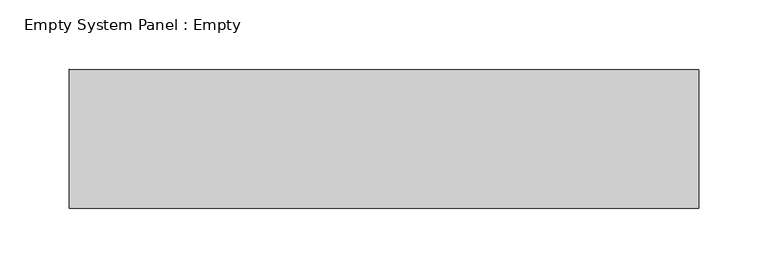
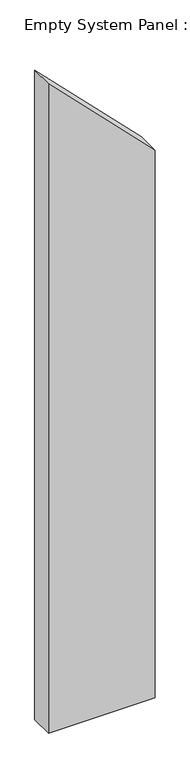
"""IFC4 building model written with IfcOpenShell, lengths in millimetres: plate geometry, Empty System Panel : Empty."""

import ifcopenshell
import ifcopenshell.guid

model = None  # the IFC model being written
_history = None  # IfcOwnerHistory: only IFC2X3 demands one
_inside = {}  # id of a spatial element -> (the spatial element, [elements in it])
_under = {}  # id of a project, library or spatial element -> (it, [spatial elements below it])
_declared = {}  # id of a project -> (the project, [libraries it declares])
_typed = {}  # id of a type object -> (the type object, [elements of that type])
_made_of = {}  # id of a material, layer set ... -> (it, [elements and type objects made of it])


def new_model(schema):
    """Start an empty IFC model of exactly this schema.

    Asked for "IFC4X3", IfcOpenShell would pick the latest addendum, in which some entities
    have other attributes; the version numbers below select the first issue.
    IFC2X3 requires an IfcOwnerHistory on every rooted entity: one is made here for all.
    """
    global model, _history
    if schema == "IFC4X3":
        model = ifcopenshell.file(schema_version=(4, 3, 0, 0))
    else:
        model = ifcopenshell.file(schema=schema)
    _inside.clear()
    _under.clear()
    _declared.clear()
    _typed.clear()
    _made_of.clear()
    _history = None
    if model.schema == "IFC2X3":
        org = make("IfcOrganization", Name="unknown")
        user = make(
            "IfcPersonAndOrganization",
            ThePerson=make("IfcPerson", FamilyName="unknown"),
            TheOrganization=org,
        )
        app = make(
            "IfcApplication",
            ApplicationDeveloper=org,
            Version="unknown",
            ApplicationFullName="unknown",
            ApplicationIdentifier="unknown",
        )
        _history = make(
            "IfcOwnerHistory",
            OwningUser=user,
            OwningApplication=app,
            ChangeAction="ADDED",
            CreationDate=0,
        )
    return model


def make(cls, **values):
    """One entity of the class cls with the attributes given. An attribute that is None is left unset."""
    return model.create_entity(
        cls, **{name: value for name, value in values.items() if value is not None}
    )


def rooted(cls, **values):
    """An entity with a GlobalId (a new one), such as an element, a storey or a relation."""
    return make(cls, GlobalId=ifcopenshell.guid.new(), OwnerHistory=_history, **values)


def si_unit(unit_type, name, prefix=None):
    """IfcSIUnit, for example si_unit("LENGTHUNIT", "METRE", prefix="MILLI")."""
    return make("IfcSIUnit", UnitType=unit_type, Prefix=prefix, Name=name)


def assignment(units):
    """IfcUnitAssignment: the units of a project."""
    return None if units is None else make("IfcUnitAssignment", Units=units)


def point(xyz):
    """IfcCartesianPoint."""
    return None if xyz is None else make("IfcCartesianPoint", Coordinates=xyz)


def direction(xyz):
    """IfcDirection."""
    return None if xyz is None else make("IfcDirection", DirectionRatios=xyz)


def frame(location, z_axis=None, x_axis=None):
    """IfcAxis2Placement3D, a coordinate frame: its origin and axes. An axis left out is left unset."""
    return make(
        "IfcAxis2Placement3D",
        Location=point(location),
        Axis=direction(z_axis),
        RefDirection=direction(x_axis),
    )


def origin():
    """The frame at (0, 0, 0) with its axes left unset."""
    return frame((0.0, 0.0, 0.0))


def place(relative_to, where):
    """IfcLocalPlacement: puts the frame where relative to a parent placement (None: the world)."""
    return make(
        "IfcLocalPlacement", PlacementRelTo=relative_to, RelativePlacement=where
    )


def context(
    kind, dimensions, precision=None, world=None, true_north=None, identifier=None
):
    """IfcGeometricRepresentationContext, for example the 3D "Model" context."""
    return make(
        "IfcGeometricRepresentationContext",
        ContextIdentifier=identifier,
        ContextType=kind,
        CoordinateSpaceDimension=dimensions,
        Precision=precision,
        WorldCoordinateSystem=world,
        TrueNorth=true_north,
    )


def project(units=None, contexts=None):
    """IfcProject with its units and contexts."""
    return rooted(
        "IfcProject",
        Name="project",
        RepresentationContexts=contexts,
        UnitsInContext=assignment(units),
    )


def spatial(cls, under=None, at=None, **own):
    """A site, building, storey or space (cls), placed at a placement, below another one or the project."""
    s = rooted(cls, ObjectPlacement=at, **own)
    if under is not None:
        _under.setdefault(under.id(), (under, []))[1].append(s)
    return s


def polyline(points):
    """IfcPolyline through the points."""
    return make("IfcPolyline", Points=[point(p) for p in points])


def outline(outer, holes=None, kind="AREA"):
    """IfcArbitraryClosedProfileDef: a profile drawn as a closed curve; with holes, ...WithVoids."""
    if holes is None:
        return make("IfcArbitraryClosedProfileDef", ProfileType=kind, OuterCurve=outer)
    return make(
        "IfcArbitraryProfileDefWithVoids",
        ProfileType=kind,
        OuterCurve=outer,
        InnerCurves=holes,
    )


def extrude(swept, where, along, depth):
    """IfcExtrudedAreaSolid: the profile swept, set in the frame where, extruded along a direction by depth."""
    return make(
        "IfcExtrudedAreaSolid",
        SweptArea=swept,
        Position=where,
        ExtrudedDirection=direction(along),
        Depth=depth,
    )


def shape(context_of_items, identifier, shape_type, items):
    """IfcShapeRepresentation: the items that make up one representation, for example the "Body"."""
    return make(
        "IfcShapeRepresentation",
        ContextOfItems=context_of_items,
        RepresentationIdentifier=identifier,
        RepresentationType=shape_type,
        Items=items,
    )


def source(mapping_origin, context_of_items, identifier, shape_type, items):
    """IfcRepresentationMap: a shape defined once, which mapped items show again and again."""
    return make(
        "IfcRepresentationMap",
        MappingOrigin=mapping_origin,
        MappedRepresentation=shape(context_of_items, identifier, shape_type, items),
    )


def transform(
    local_origin,
    x_axis=None,
    y_axis=None,
    z_axis=None,
    scale=None,
    scale2=None,
    scale3=None,
    uniform=True,
):
    """IfcCartesianTransformationOperator3D, or its non-uniform kind. x_axis, y_axis, z_axis: its Axis1, 2, 3."""
    if uniform:
        return make(
            "IfcCartesianTransformationOperator3D",
            Axis1=direction(x_axis),
            Axis2=direction(y_axis),
            LocalOrigin=point(local_origin),
            Scale=scale,
            Axis3=direction(z_axis),
        )
    return make(
        "IfcCartesianTransformationOperator3DnonUniform",
        Axis1=direction(x_axis),
        Axis2=direction(y_axis),
        LocalOrigin=point(local_origin),
        Scale=scale,
        Axis3=direction(z_axis),
        Scale2=scale2,
        Scale3=scale3,
    )


def mapped(mapping_source, mapping_target):
    """IfcMappedItem: shows the shape of a source again, moved by a transform."""
    return make(
        "IfcMappedItem", MappingSource=mapping_source, MappingTarget=mapping_target
    )


def made_of(thing, what):
    """Note that an element or type object is made of a material, layer set ...; save() writes the relation."""
    if what is not None:
        _made_of.setdefault(what.id(), (what, []))[1].append(thing)
    return thing


def element(
    cls,
    number,
    at=None,
    inside=None,
    cuts=None,
    type_object=None,
    material=None,
    context=None,
    identifier="Body",
    shape_type=None,
    held_by="IfcProductDefinitionShape",
    body=None,
    shapes=None,
    **own,
):
    """One element of the class cls, such as IfcWall. Its Tag is "e" and its number.

    at: its placement. inside: the storey or other place that contains it. cuts: it is an
    opening in that element (IfcRelVoidsElement). A single representation is given by context,
    identifier, shape_type and body (its items); several are given by shapes. held_by: the class
    of the entity that holds the representations. save() writes the other relations.
    """
    e = rooted(cls, Tag="e%d" % number, ObjectPlacement=at, **own)
    if body is not None:
        shapes = [shape(context, identifier, shape_type, body)]
    if shapes is not None:
        e.Representation = make(held_by, Representations=shapes)
    if inside is not None:
        _inside.setdefault(inside.id(), (inside, []))[1].append(e)
    if cuts is not None:
        rooted(
            "IfcRelVoidsElement", RelatingBuildingElement=cuts, RelatedOpeningElement=e
        )
    if type_object is not None:
        _typed.setdefault(type_object.id(), (type_object, []))[1].append(e)
    return made_of(e, material)


def aggregate(whole, parts):
    """IfcRelAggregates: a whole, such as a stair, and the parts it consists of."""
    return rooted("IfcRelAggregates", RelatingObject=whole, RelatedObjects=parts)


def save(model, path):
    """Write the relations noted so far, then the file.

    IfcRelAggregates (storeys below a building ...), IfcRelContainedInSpatialStructure (elements
    in a storey), IfcRelDefinesByType, IfcRelAssociatesMaterial and IfcRelDeclares: one each for
    every whole, place, type object, material and project.
    """
    for whole, parts in _under.values():
        aggregate(whole, parts)
    for where, things in _inside.values():
        rooted(
            "IfcRelContainedInSpatialStructure",
            RelatedElements=things,
            RelatingStructure=where,
        )
    for kind, things in _typed.values():
        rooted("IfcRelDefinesByType", RelatedObjects=things, RelatingType=kind)
    for what, things in _made_of.values():
        rooted("IfcRelAssociatesMaterial", RelatedObjects=things, RelatingMaterial=what)
    for by, libraries in _declared.values():
        rooted("IfcRelDeclares", RelatingContext=by, RelatedDefinitions=libraries)
    model.write(path)


def empty_system_panel_empty_aace67a7(model_context):
    return source(origin(), model_context, "Body", "SweptSolid", [
        extrude(outline(polyline([(0.0, -226.4404253), (0.0, 226.4404253), (2455.3124786, 226.4404253), (2913.2598979, -226.4404253), (0.0, -226.4404253)])), frame((0.0, -50.0, 0.0), z_axis=(0.0, 1.0, 0.0), x_axis=(0.0, 0.0, 1.0)), (0.0, 0.0, 1.0), 100.0),
    ])


if __name__ == "__main__":
    model = new_model("IFC4")
    model_context = context("Model", 3, world=origin())
    ifc_project = project(units=[si_unit("LENGTHUNIT", "METRE", prefix="MILLI")], contexts=[model_context])
    site = spatial("IfcSite", under=ifc_project)
    building = spatial("IfcBuilding", under=site)
    placement = place(None, origin())
    empty_system_panel_empty_shape = empty_system_panel_empty_aace67a7(model_context)
    element("IfcPlate", 1, ObjectType="Empty System Panel : Empty", at=placement, inside=building, context=model_context, shape_type="MappedRepresentation", body=[
        mapped(empty_system_panel_empty_shape, transform((0.0, 0.0, 0.0), x_axis=(1.0, 0.0, 0.0), y_axis=(0.0, 1.0, 0.0), z_axis=(0.0, 0.0, 1.0))),
    ])
    save(model, "model.ifc")
